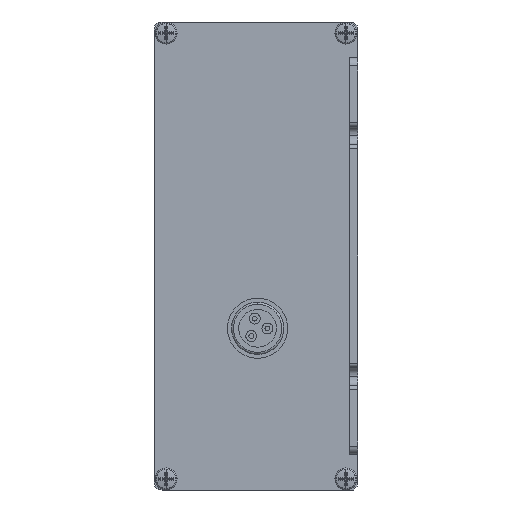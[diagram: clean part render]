
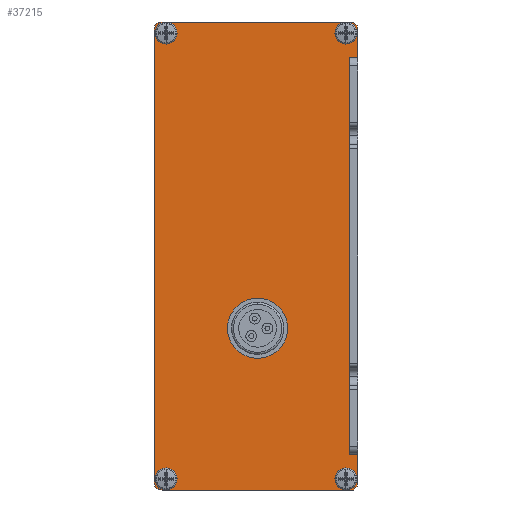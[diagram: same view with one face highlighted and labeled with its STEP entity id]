
A CAD part, left-side view. The second image highlights one B-rep face of the part: STEP entity #37215.
In plain terms, the highlighted planar face has unit normal (-1, 0, 0) as drawn and (0, 0, 1) by its records, which use the part's own axes.
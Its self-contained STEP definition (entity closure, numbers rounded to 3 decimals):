
#35742=DIRECTION('',(0.,1.,0.));
#35743=VECTOR('',#35742,2.);
#35744=CARTESIAN_POINT('',(49.35,0.,-10.9));
#35745=LINE('',#35744,#35743);
#36042=CARTESIAN_POINT('',(-56.3,48.8,-10.9));
#36043=DIRECTION('',(0.,0.,1.));
#36044=DIRECTION('',(0.,1.,0.));
#36045=AXIS2_PLACEMENT_3D('',#36042,#36043,#36044);
#36047=CARTESIAN_POINT('',(56.3,48.8,-10.9));
#36048=DIRECTION('',(0.,0.,1.));
#36049=DIRECTION('',(1.,0.,0.));
#36050=AXIS2_PLACEMENT_3D('',#36047,#36048,#36049);
#36052=DIRECTION('',(0.,1.,0.));
#36053=VECTOR('',#36052,47.624);
#36054=CARTESIAN_POINT('',(58.3,1.176,-10.9));
#36055=LINE('',#36054,#36053);
#36056=CARTESIAN_POINT('',(55.55,3.,-10.9));
#36057=DIRECTION('',(0.,0.,1.));
#36058=DIRECTION('',(0.417,-0.909,0.));
#36059=AXIS2_PLACEMENT_3D('',#36056,#36057,#36058);
#36061=DIRECTION('',(1.,0.,0.));
#36062=VECTOR('',#36061,7.575);
#36063=CARTESIAN_POINT('',(49.35,0.,-10.9));
#36064=LINE('',#36063,#36062);
#36065=DIRECTION('',(1.,0.,0.));
#36066=VECTOR('',#36065,98.7);
#36067=CARTESIAN_POINT('',(-49.35,2.,-10.9));
#36068=LINE('',#36067,#36066);
#36069=DIRECTION('',(0.,1.,0.));
#36070=VECTOR('',#36069,2.);
#36071=CARTESIAN_POINT('',(-49.35,0.,-10.9));
#36072=LINE('',#36071,#36070);
#36073=DIRECTION('',(1.,0.,0.));
#36074=VECTOR('',#36073,7.575);
#36075=CARTESIAN_POINT('',(-56.925,0.,-10.9));
#36076=LINE('',#36075,#36074);
#36077=CARTESIAN_POINT('',(-55.55,3.,-10.9));
#36078=DIRECTION('',(0.,0.,1.));
#36079=DIRECTION('',(-0.833,-0.553,0.));
#36080=AXIS2_PLACEMENT_3D('',#36077,#36078,#36079);
#36082=CARTESIAN_POINT('',(-18.,25.,-10.9));
#36083=DIRECTION('',(0.,0.,-1.));
#36084=DIRECTION('',(1.,0.,0.));
#36085=AXIS2_PLACEMENT_3D('',#36082,#36083,#36084);
#36087=CARTESIAN_POINT('',(-18.,25.,-10.9));
#36088=DIRECTION('',(0.,0.,-1.));
#36089=DIRECTION('',(-1.,0.,0.));
#36090=AXIS2_PLACEMENT_3D('',#36087,#36088,#36089);
#36092=CARTESIAN_POINT('',(-18.,25.,-10.9));
#36093=DIRECTION('',(0.,0.,-1.));
#36094=DIRECTION('',(0.,-1.,0.));
#36095=AXIS2_PLACEMENT_3D('',#36092,#36093,#36094);
#36097=CARTESIAN_POINT('',(-55.55,3.,-10.9));
#36098=DIRECTION('',(0.,0.,-1.));
#36099=DIRECTION('',(1.,0.,0.));
#36100=AXIS2_PLACEMENT_3D('',#36097,#36098,#36099);
#36102=CARTESIAN_POINT('',(-55.55,3.,-10.9));
#36103=DIRECTION('',(0.,0.,-1.));
#36104=DIRECTION('',(-1.,0.,0.));
#36105=AXIS2_PLACEMENT_3D('',#36102,#36103,#36104);
#36107=CARTESIAN_POINT('',(-55.55,3.,-10.9));
#36108=DIRECTION('',(0.,0.,-1.));
#36109=DIRECTION('',(0.,-1.,0.));
#36110=AXIS2_PLACEMENT_3D('',#36107,#36108,#36109);
#36112=CARTESIAN_POINT('',(55.55,3.,-10.9));
#36113=DIRECTION('',(0.,0.,-1.));
#36114=DIRECTION('',(1.,0.,0.));
#36115=AXIS2_PLACEMENT_3D('',#36112,#36113,#36114);
#36117=CARTESIAN_POINT('',(55.55,3.,-10.9));
#36118=DIRECTION('',(0.,0.,-1.));
#36119=DIRECTION('',(-1.,0.,0.));
#36120=AXIS2_PLACEMENT_3D('',#36117,#36118,#36119);
#36122=CARTESIAN_POINT('',(55.55,3.,-10.9));
#36123=DIRECTION('',(0.,0.,-1.));
#36124=DIRECTION('',(0.,-1.,0.));
#36125=AXIS2_PLACEMENT_3D('',#36122,#36123,#36124);
#36127=CARTESIAN_POINT('',(55.55,47.8,-10.9));
#36128=DIRECTION('',(0.,0.,-1.));
#36129=DIRECTION('',(1.,0.,0.));
#36130=AXIS2_PLACEMENT_3D('',#36127,#36128,#36129);
#36132=CARTESIAN_POINT('',(55.55,47.8,-10.9));
#36133=DIRECTION('',(0.,0.,-1.));
#36134=DIRECTION('',(-1.,0.,0.));
#36135=AXIS2_PLACEMENT_3D('',#36132,#36133,#36134);
#36137=CARTESIAN_POINT('',(55.55,47.8,-10.9));
#36138=DIRECTION('',(0.,0.,-1.));
#36139=DIRECTION('',(0.,-1.,0.));
#36140=AXIS2_PLACEMENT_3D('',#36137,#36138,#36139);
#36142=CARTESIAN_POINT('',(-55.55,47.8,-10.9));
#36143=DIRECTION('',(0.,0.,-1.));
#36144=DIRECTION('',(1.,0.,0.));
#36145=AXIS2_PLACEMENT_3D('',#36142,#36143,#36144);
#36147=CARTESIAN_POINT('',(-55.55,47.8,-10.9));
#36148=DIRECTION('',(0.,0.,-1.));
#36149=DIRECTION('',(-1.,0.,0.));
#36150=AXIS2_PLACEMENT_3D('',#36147,#36148,#36149);
#36152=CARTESIAN_POINT('',(-55.55,47.8,-10.9));
#36153=DIRECTION('',(0.,0.,-1.));
#36154=DIRECTION('',(0.,-1.,0.));
#36155=AXIS2_PLACEMENT_3D('',#36152,#36153,#36154);
#36161=DIRECTION('',(0.,1.,0.));
#36162=VECTOR('',#36161,47.624);
#36163=CARTESIAN_POINT('',(-58.3,1.176,-10.9));
#36164=LINE('',#36163,#36162);
#36277=DIRECTION('',(1.,0.,0.));
#36278=VECTOR('',#36277,112.6);
#36279=CARTESIAN_POINT('',(-56.3,50.8,-10.9));
#36280=LINE('',#36279,#36278);
#36419=CARTESIAN_POINT('',(-25.5,25.,-10.9));
#36421=VERTEX_POINT('',#36419);
#36431=CARTESIAN_POINT('',(-10.5,25.,-10.9));
#36432=CARTESIAN_POINT('',(-18.,17.5,-10.9));
#36433=VERTEX_POINT('',#36431);
#36434=VERTEX_POINT('',#36432);
#36469=CARTESIAN_POINT('',(-56.3,50.8,-10.9));
#36471=VERTEX_POINT('',#36469);
#36491=CARTESIAN_POINT('',(-54.1,47.8,-10.9));
#36493=VERTEX_POINT('',#36491);
#36499=CARTESIAN_POINT('',(57.,3.,-10.9));
#36500=VERTEX_POINT('',#36499);
#36501=CARTESIAN_POINT('',(54.1,47.8,-10.9));
#36502=CARTESIAN_POINT('',(57.,47.8,-10.9));
#36503=VERTEX_POINT('',#36501);
#36504=VERTEX_POINT('',#36502);
#36505=CARTESIAN_POINT('',(-55.55,46.35,-10.9));
#36506=VERTEX_POINT('',#36505);
#36507=CARTESIAN_POINT('',(-57.,47.8,-10.9));
#36508=VERTEX_POINT('',#36507);
#36519=CARTESIAN_POINT('',(-49.35,2.,-10.9));
#36521=VERTEX_POINT('',#36519);
#36539=CARTESIAN_POINT('',(54.1,3.,-10.9));
#36540=VERTEX_POINT('',#36539);
#36553=CARTESIAN_POINT('',(49.35,2.,-10.9));
#36554=VERTEX_POINT('',#36553);
#36555=CARTESIAN_POINT('',(-56.925,0.,-10.9));
#36556=VERTEX_POINT('',#36555);
#36560=CARTESIAN_POINT('',(-58.3,48.8,-10.9));
#36562=VERTEX_POINT('',#36560);
#36563=CARTESIAN_POINT('',(56.925,0.,-10.9));
#36564=CARTESIAN_POINT('',(58.3,1.176,-10.9));
#36565=VERTEX_POINT('',#36563);
#36566=VERTEX_POINT('',#36564);
#36569=CARTESIAN_POINT('',(55.55,1.55,-10.9));
#36570=VERTEX_POINT('',#36569);
#36585=CARTESIAN_POINT('',(56.3,50.8,-10.9));
#36586=VERTEX_POINT('',#36585);
#36587=CARTESIAN_POINT('',(-58.3,1.176,-10.9));
#36588=VERTEX_POINT('',#36587);
#36595=CARTESIAN_POINT('',(-49.35,0.,-10.9));
#36596=VERTEX_POINT('',#36595);
#36597=CARTESIAN_POINT('',(49.35,0.,-10.9));
#36598=VERTEX_POINT('',#36597);
#36623=CARTESIAN_POINT('',(-54.1,3.,-10.9));
#36624=CARTESIAN_POINT('',(-55.55,1.55,-10.9));
#36625=VERTEX_POINT('',#36623);
#36626=VERTEX_POINT('',#36624);
#36627=CARTESIAN_POINT('',(-57.,3.,-10.9));
#36628=VERTEX_POINT('',#36627);
#36629=CARTESIAN_POINT('',(58.3,48.8,-10.9));
#36630=VERTEX_POINT('',#36629);
#36633=CARTESIAN_POINT('',(55.55,46.35,-10.9));
#36634=VERTEX_POINT('',#36633);
#37149=CARTESIAN_POINT('',(58.3,2.,-10.9));
#37150=DIRECTION('',(0.,0.,-1.));
#37151=DIRECTION('',(0.,1.,0.));
#37152=AXIS2_PLACEMENT_3D('',#37149,#37150,#37151);
#37153=PLANE('',#37152);
#37155=ORIENTED_EDGE('',*,*,#37154,.T.);
#37157=ORIENTED_EDGE('',*,*,#37156,.F.);
#37159=ORIENTED_EDGE('',*,*,#37158,.T.);
#37161=ORIENTED_EDGE('',*,*,#37160,.F.);
#37163=ORIENTED_EDGE('',*,*,#37162,.F.);
#37165=ORIENTED_EDGE('',*,*,#37164,.F.);
#37166=ORIENTED_EDGE('',*,*,#36658,.F.);
#37167=ORIENTED_EDGE('',*,*,#36741,.T.);
#37168=ORIENTED_EDGE('',*,*,#36803,.F.);
#37169=ORIENTED_EDGE('',*,*,#37142,.F.);
#37170=ORIENTED_EDGE('',*,*,#36666,.F.);
#37172=ORIENTED_EDGE('',*,*,#37171,.F.);
#37173=EDGE_LOOP('',(#37155,#37157,#37159,#37161,#37163,#37165,#37166,#37167,
#37168,#37169,#37170,#37172));
#37174=FACE_OUTER_BOUND('',#37173,.F.);
#37176=ORIENTED_EDGE('',*,*,#37175,.F.);
#37178=ORIENTED_EDGE('',*,*,#37177,.F.);
#37180=ORIENTED_EDGE('',*,*,#37179,.F.);
#37181=EDGE_LOOP('',(#37176,#37178,#37180));
#37182=FACE_BOUND('',#37181,.F.);
#37184=ORIENTED_EDGE('',*,*,#37183,.F.);
#37186=ORIENTED_EDGE('',*,*,#37185,.F.);
#37188=ORIENTED_EDGE('',*,*,#37187,.F.);
#37189=EDGE_LOOP('',(#37184,#37186,#37188));
#37190=FACE_BOUND('',#37189,.F.);
#37192=ORIENTED_EDGE('',*,*,#37191,.F.);
#37194=ORIENTED_EDGE('',*,*,#37193,.F.);
#37196=ORIENTED_EDGE('',*,*,#37195,.F.);
#37197=EDGE_LOOP('',(#37192,#37194,#37196));
#37198=FACE_BOUND('',#37197,.F.);
#37200=ORIENTED_EDGE('',*,*,#37199,.F.);
#37202=ORIENTED_EDGE('',*,*,#37201,.F.);
#37204=ORIENTED_EDGE('',*,*,#37203,.F.);
#37205=EDGE_LOOP('',(#37200,#37202,#37204));
#37206=FACE_BOUND('',#37205,.F.);
#37208=ORIENTED_EDGE('',*,*,#37207,.F.);
#37210=ORIENTED_EDGE('',*,*,#37209,.F.);
#37212=ORIENTED_EDGE('',*,*,#37211,.F.);
#37213=EDGE_LOOP('',(#37208,#37210,#37212));
#37214=FACE_BOUND('',#37213,.F.);
#37215=ADVANCED_FACE('',(#37174,#37182,#37190,#37198,#37206,#37214),#37153,.F.);
#36046=CIRCLE('',#36045,2.);
#36051=CIRCLE('',#36050,2.);
#36060=CIRCLE('',#36059,3.3);
#36081=CIRCLE('',#36080,3.3);
#36086=CIRCLE('',#36085,7.5);
#36091=CIRCLE('',#36090,7.5);
#36096=CIRCLE('',#36095,7.5);
#36101=CIRCLE('',#36100,1.45);
#36106=CIRCLE('',#36105,1.45);
#36111=CIRCLE('',#36110,1.45);
#36116=CIRCLE('',#36115,1.45);
#36121=CIRCLE('',#36120,1.45);
#36126=CIRCLE('',#36125,1.45);
#36131=CIRCLE('',#36130,1.45);
#36136=CIRCLE('',#36135,1.45);
#36141=CIRCLE('',#36140,1.45);
#36146=CIRCLE('',#36145,1.45);
#36151=CIRCLE('',#36150,1.45);
#36156=CIRCLE('',#36155,1.45);
#36658=EDGE_CURVE('',#36598,#36565,#36064,.T.);
#36666=EDGE_CURVE('',#36556,#36596,#36076,.T.);
#36741=EDGE_CURVE('',#36598,#36554,#35745,.T.);
#36803=EDGE_CURVE('',#36521,#36554,#36068,.T.);
#37142=EDGE_CURVE('',#36596,#36521,#36072,.T.);
#37154=EDGE_CURVE('',#36588,#36562,#36164,.T.);
#37156=EDGE_CURVE('',#36471,#36562,#36046,.T.);
#37158=EDGE_CURVE('',#36471,#36586,#36280,.T.);
#37160=EDGE_CURVE('',#36630,#36586,#36051,.T.);
#37162=EDGE_CURVE('',#36566,#36630,#36055,.T.);
#37164=EDGE_CURVE('',#36565,#36566,#36060,.T.);
#37171=EDGE_CURVE('',#36588,#36556,#36081,.T.);
#37175=EDGE_CURVE('',#36433,#36434,#36086,.T.);
#37177=EDGE_CURVE('',#36421,#36433,#36091,.T.);
#37179=EDGE_CURVE('',#36434,#36421,#36096,.T.);
#37183=EDGE_CURVE('',#36625,#36626,#36101,.T.);
#37185=EDGE_CURVE('',#36628,#36625,#36106,.T.);
#37187=EDGE_CURVE('',#36626,#36628,#36111,.T.);
#37191=EDGE_CURVE('',#36500,#36570,#36116,.T.);
#37193=EDGE_CURVE('',#36540,#36500,#36121,.T.);
#37195=EDGE_CURVE('',#36570,#36540,#36126,.T.);
#37199=EDGE_CURVE('',#36504,#36634,#36131,.T.);
#37201=EDGE_CURVE('',#36503,#36504,#36136,.T.);
#37203=EDGE_CURVE('',#36634,#36503,#36141,.T.);
#37207=EDGE_CURVE('',#36493,#36506,#36146,.T.);
#37209=EDGE_CURVE('',#36508,#36493,#36151,.T.);
#37211=EDGE_CURVE('',#36506,#36508,#36156,.T.);
